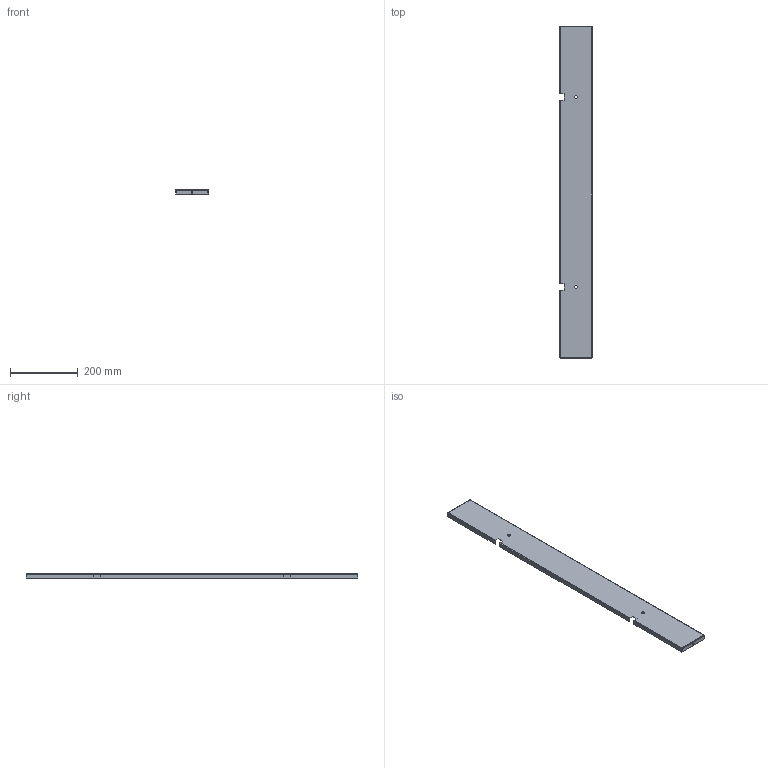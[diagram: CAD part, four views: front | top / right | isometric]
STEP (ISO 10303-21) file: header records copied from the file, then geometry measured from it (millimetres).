
FILE_DESCRIPTION (( 'STEP AP203' ), '1' );
FILE_NAME ('EUP0130.STEP', '2018-07-03T12:35:28', ( '' ), ( '' ), 'SwSTEP 2.0', 'SolidWorks 2017', '' );
FILE_SCHEMA (( 'CONFIG_CONTROL_DESIGN' ));
Length unit declared in the file: millimetre
Products named in the file (1): EUP0130
Bounding box: 96 x 982 x 13.5 mm (x, y, z)
Volume: 118140.9 mm3; surface area: 238750.4 mm2
Topology: 1 solids, 1 shells, 74 faces, 168 edges, 96 vertices
Faces by surface type: plane 46, cylinder 20, bspline 8
Entity records: 2419 total; most frequent: CARTESIAN_POINT 753, ORIENTED_EDGE 336, DIRECTION 298, EDGE_CURVE 168, LINE 116, VECTOR 116, VERTEX_POINT 96, AXIS2_PLACEMENT_3D 91
